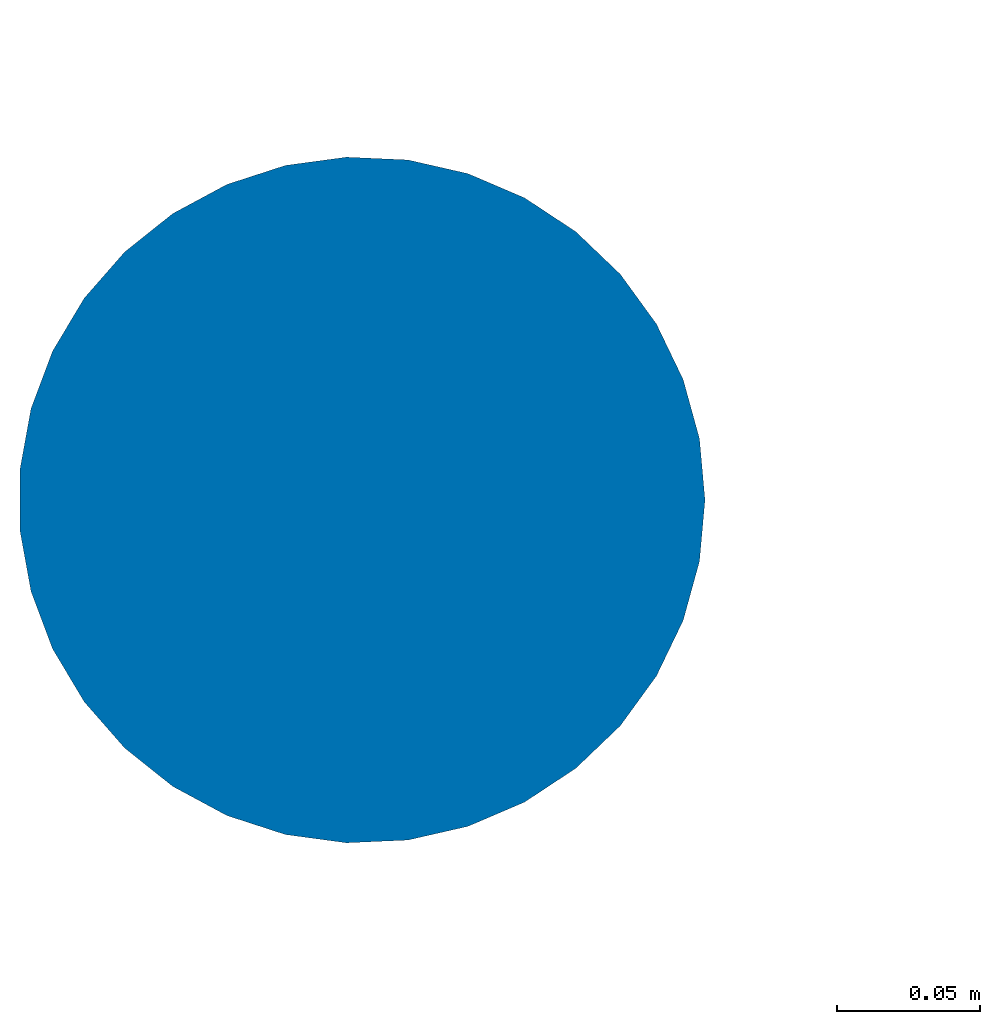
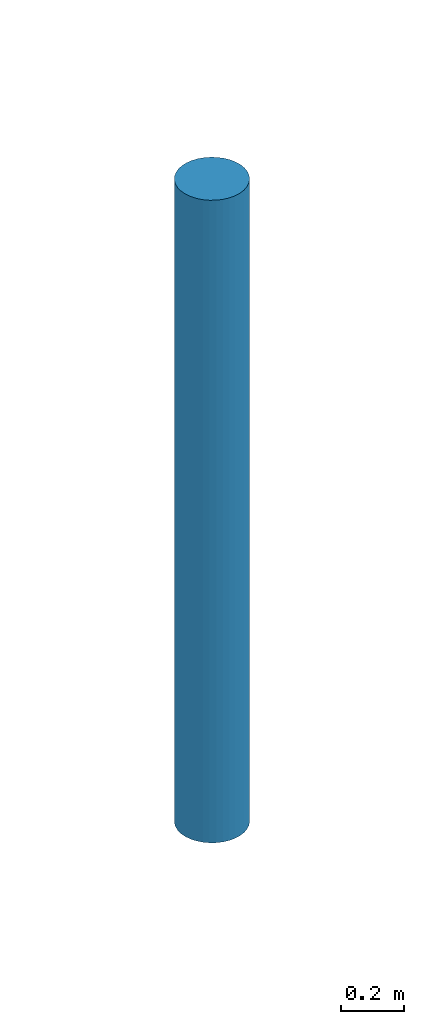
# One storey, part 1 of 2: 1 column.
"""IFC2X3 building model written with IfcOpenShell, lengths in millimetres."""

from ifc_helpers import new_model, entity, si_unit, converted_unit, derived_unit, money_unit, direction, frame, origin_with_axes, origin_2d_with_axis, place, context, subcontext, project, spatial, circle, extrude, material, type_object, element, save


model = new_model("IFC2X3")

# Units and contexts
model_context = context("Model", 3, precision=0.01, world=origin_with_axes(), true_north=direction((0.0, 1.0)))
body_context = subcontext(model_context, "Body", "Model", "MODEL_VIEW")
ifc_project = project(units=[si_unit("LENGTHUNIT", "METRE", prefix="MILLI"), si_unit("AREAUNIT", "SQUARE_METRE"), si_unit("VOLUMEUNIT", "CUBIC_METRE"), converted_unit("PLANEANGLEUNIT", "DEGREE", entity("IfcPlaneAngleMeasure", 0.0174532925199), si_unit("PLANEANGLEUNIT", "RADIAN"), dimensions=[0, 0, 0, 0, 0, 0, 0]), si_unit("SOLIDANGLEUNIT", "STERADIAN"), money_unit("EUR"), converted_unit("TIMEUNIT", "Year", entity("IfcTimeMeasure", 31556926.0), si_unit("TIMEUNIT", "SECOND"), dimensions=[0, 0, 1, 0, 0, 0, 0]), si_unit("MASSUNIT", "GRAM", prefix="KILO"), si_unit("THERMODYNAMICTEMPERATUREUNIT", "DEGREE_CELSIUS"), si_unit("LUMINOUSINTENSITYUNIT", "LUMEN"), si_unit("ENERGYUNIT", "JOULE", prefix="MEGA"), derived_unit("THERMALCONDUCTANCEUNIT", [(si_unit("POWERUNIT", "WATT"), 1), (si_unit("LENGTHUNIT", "METRE"), -1), (si_unit("THERMODYNAMICTEMPERATUREUNIT", "KELVIN"), -1)]), derived_unit("SPECIFICHEATCAPACITYUNIT", [(si_unit("ENERGYUNIT", "JOULE"), 1), (si_unit("MASSUNIT", "GRAM", prefix="KILO"), -1), (si_unit("THERMODYNAMICTEMPERATUREUNIT", "KELVIN"), -1)]), derived_unit("MASSDENSITYUNIT", [(si_unit("MASSUNIT", "GRAM", prefix="KILO"), 1), (si_unit("VOLUMEUNIT", "CUBIC_METRE"), -1)])], contexts=[model_context])

# Site, building, storey
site_placement = place(None, origin_with_axes())
site = spatial("IfcSite", under=ifc_project, at=site_placement, Name="Politse- ja Piirivalveameti ning Päästeameti ühishoone", CompositionType="ELEMENT")
building_placement = place(site_placement, origin_with_axes())
building = spatial("IfcBuilding", under=site, at=building_placement, Name="Politse- ja Piirivalveameti ning Päästeameti ühishoone", CompositionType="ELEMENT")
storey_placement = place(building_placement, frame((0.0, 0.0, -4000.0), z_axis=(0.0, 0.0, 1.0), x_axis=(1.0, 0.0, 0.0)))
storey = spatial("IfcBuildingStorey", under=building, at=storey_placement, Name="Vundament", CompositionType="ELEMENT", Elevation=-4000.0)

# Column
ifc_material = material(Name="ET-05_Teras")
column_type = type_object("IfcColumnType", Name="ET-05_Teras D240", PredefinedType="COLUMN")
column_placement = place(storey_placement, frame((84427.8096566, 38120.354862, 4000.0), z_axis=(0.0, 0.0, 1.0), x_axis=(1.0, 0.0, 0.0)))
element("IfcColumn", 1, at=column_placement, inside=storey, type_object=column_type, material=ifc_material, Name="POST", ObjectType="COLUMN", context=body_context, shape_type="SweptSolid", body=[
    extrude(circle(Radius=120.000032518, at=origin_2d_with_axis()), origin_with_axes(), (0.0, 0.0, 1.0), 2499.9),
])

save(model, "model.ifc")
